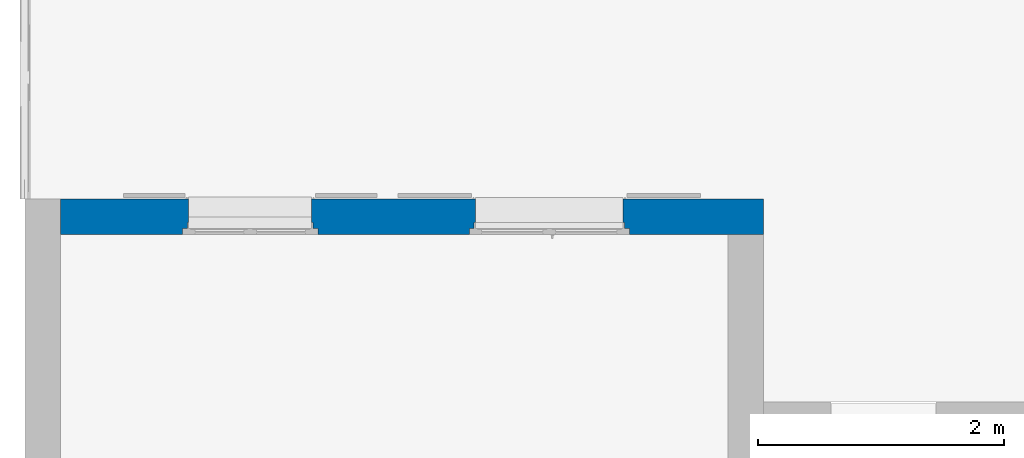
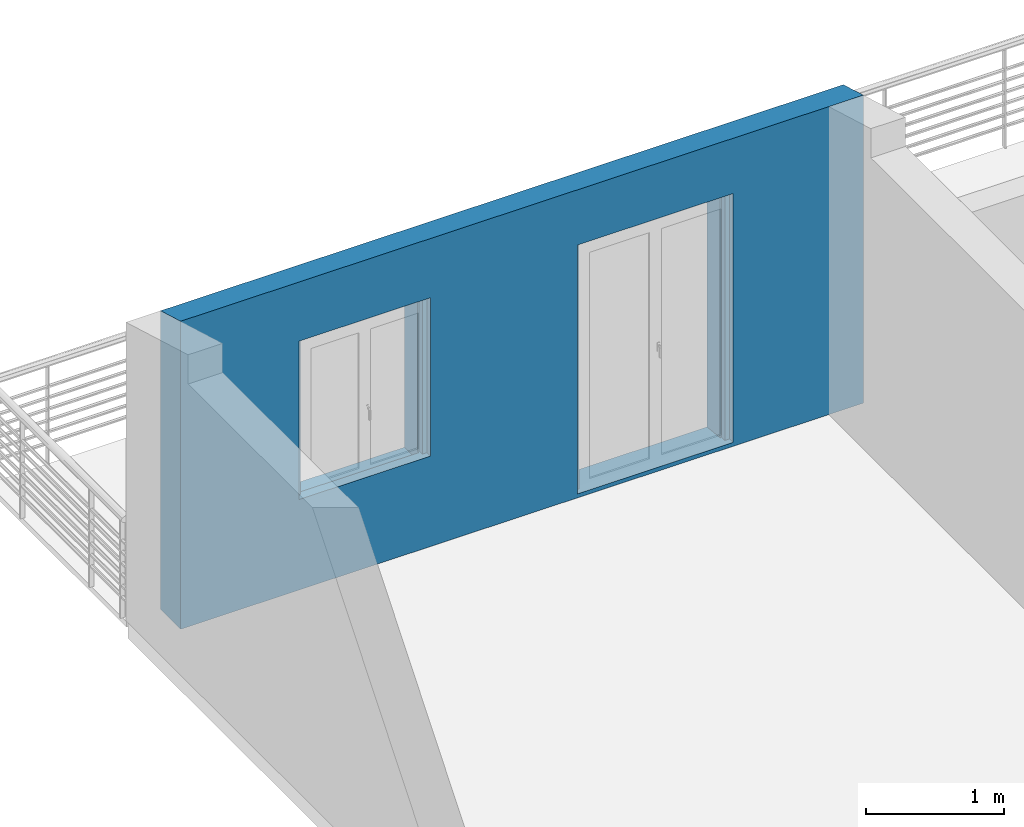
# One storey, part 4 of 6: 1 wall, 2 openings.
"""IFC2X3 building model written with IfcOpenShell, lengths in metres."""

from ifc_helpers import new_model, entity, si_unit, converted_unit, derived_unit, direction, frame, frame_2d, origin, place, context, subcontext, project, spatial, polyline, rectangle, extrude, clip, bounded_halfspace, faceted_brep, material, layer, layer_set, layer_usage, type_object, element, save


model = new_model("IFC2X3")

# Units and contexts
model_context = context("Model", 3, precision=1e-05, world=origin(), true_north=direction((6.12303176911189e-17, 1.0)))
context_of_model = context(None, 3, precision=1e-05, world=origin(), true_north=direction((6.12303176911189e-17, 1.0)))
body_context = subcontext(model_context, "Body", "Model", "MODEL_VIEW")
ifc_project = project(units=[si_unit("LENGTHUNIT", "METRE"), si_unit("AREAUNIT", "SQUARE_METRE"), si_unit("VOLUMEUNIT", "CUBIC_METRE"), converted_unit("PLANEANGLEUNIT", "DEGREE", entity("IfcRatioMeasure", 0.0174532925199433), si_unit("PLANEANGLEUNIT", "RADIAN"), dimensions=[0, 0, 0, 0, 0, 0, 0]), si_unit("MASSUNIT", "GRAM", prefix="KILO"), si_unit("TIMEUNIT", "SECOND"), si_unit("FREQUENCYUNIT", "HERTZ"), si_unit("THERMODYNAMICTEMPERATUREUNIT", "DEGREE_CELSIUS"), derived_unit("THERMALTRANSMITTANCEUNIT", [(si_unit("MASSUNIT", "GRAM", prefix="KILO"), 1), (si_unit("THERMODYNAMICTEMPERATUREUNIT", "KELVIN"), -1), (si_unit("TIMEUNIT", "SECOND"), -3)]), derived_unit("VOLUMETRICFLOWRATEUNIT", [(si_unit("LENGTHUNIT", "METRE"), 3), (si_unit("TIMEUNIT", "SECOND"), -1)]), si_unit("ELECTRICCURRENTUNIT", "AMPERE"), si_unit("ELECTRICVOLTAGEUNIT", "VOLT"), si_unit("POWERUNIT", "WATT"), si_unit("FORCEUNIT", "NEWTON", prefix="KILO"), si_unit("ILLUMINANCEUNIT", "LUX"), si_unit("LUMINOUSFLUXUNIT", "LUMEN"), si_unit("LUMINOUSINTENSITYUNIT", "CANDELA"), si_unit("PRESSUREUNIT", "PASCAL")], contexts=[model_context, context_of_model])

# Site, building, storey
site_placement = place(None, origin())
site = spatial("IfcSite", under=ifc_project, at=site_placement, Name="Surface", CompositionType="ELEMENT")
building_placement = place(site_placement, origin())
building = spatial("IfcBuilding", under=site, at=building_placement, CompositionType="ELEMENT")
storey_placement = place(building_placement, origin())
storey = spatial("IfcBuildingStorey", under=building, at=storey_placement, Name="Niveau 0", CompositionType="ELEMENT", Elevation=-1.94916083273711e-14)

# Wall, openings
ifc_material_1 = material(Name="Maçonnerie - Enduit")
ifc_layer_1 = layer(ifc_material_1, 0.01)
ifc_material_2 = material(Name="Eléments de maçonnerie en béton")
ifc_layer_2 = layer(ifc_material_2, 0.2)
ifc_material_3 = material(Name="Maçonnerie - Isolant")
ifc_layer_3 = layer(ifc_material_3, 0.08)
ifc_layer_set = layer_set([ifc_layer_1, ifc_layer_2, ifc_layer_3], Name="Mur de base:Ext. Parpaing 20 + Isolant 8")
ifc_layer_usage = layer_usage(ifc_layer_set, "AXIS2", "NEGATIVE", 0.145)
wall_type = type_object("IfcWallType", Name="Mur de base:Ext. Parpaing 20 + Isolant 8", PredefinedType="STANDARD", material=ifc_layer_set)
wall_placement = place(storey_placement, frame((-8.50909160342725, 1.64641734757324, 0.0)))
wall = element("IfcWallStandardCase", 1, at=wall_placement, inside=storey, type_object=wall_type, material=ifc_layer_usage, Name="Mur de base:Ext. Parpaing 20 + Isolant 8", ObjectType="Mur de base:Ext. Parpaing 20 + Isolant 8", context=body_context, shape_type="Clipping", body=[
    clip(extrude(rectangle(XDim=5.71, YDim=0.29, at=frame_2d((2.855, -6.93889390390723e-17), x_axis=(-1.0, 0.0))), origin(), (0.0, 0.0, 1.0), 2.72315616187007), bounded_halfspace(frame((0.0, -0.145, 2.72315616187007), z_axis=(0.0, 0.275637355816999, 0.961261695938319), x_axis=(-1.0, 0.0, 0.0)), False, frame((0.0, -0.145, 2.72315616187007)), polyline([(0.0, 0.0), (5.42, 0.0), (5.71, 0.0), (5.71, 0.29), (0.0, 0.29), (0.0, 0.0)]))),
])
opening_1_placement = place(wall_placement, frame((0.989999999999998, -0.500000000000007, 0.72)))
element("IfcOpeningElement", 2, at=opening_1_placement, cuts=wall, Name="Mur de base:Ext. Parpaing 20 + Isolant 8", ObjectType="Opening", context=body_context, shape_type="Brep", body=[
    faceted_brep([(0.0500000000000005, 0.434999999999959, 0.0800000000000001), (0.0500000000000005, 0.455000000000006, 0.0800000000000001), (0.0500000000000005, 0.455000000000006, 1.43), (0.0500000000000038, 1.0, 1.43), (0.0500000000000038, 1.0, 0.0), (0.0500000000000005, 0.434999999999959, 0.0), (1.05, 0.0, 0.0800000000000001), (1.05, 0.355000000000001, 0.0800000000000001), (1.05, 0.355000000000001, 1.43), (1.05, 0.0, 1.43), (0.0499999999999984, 0.0, 0.0800000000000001), (0.0500000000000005, 0.355000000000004, 0.0800000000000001), (0.0, 0.355000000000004, 0.0800000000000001), (0.0, 0.405000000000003, 0.0800000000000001), (0.0399999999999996, 0.405000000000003, 0.0800000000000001), (0.0399999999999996, 0.455000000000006, 0.0800000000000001), (1.05, 0.434999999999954, 0.0800000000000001), (1.05, 0.455000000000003, 0.0800000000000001), (1.06, 0.455000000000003, 0.0800000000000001), (1.06, 0.405, 0.0800000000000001), (1.1, 0.405, 0.0800000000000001), (1.1, 0.355000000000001, 0.0800000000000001), (0.0499999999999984, 0.0, 1.43), (1.05, 0.455000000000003, 1.43), (1.05, 1.0, 1.43), (1.05, 1.0, 0.0), (1.05, 0.434999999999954, 0.0), (0.0, 0.355000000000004, 1.48), (0.0, 0.405000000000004, 1.48), (1.1, 0.405, 1.48), (1.06, 0.405, 1.44), (0.0400000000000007, 0.405000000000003, 1.44), (0.0399999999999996, 0.455000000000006, 1.44), (1.06, 0.455000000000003, 1.44), (0.0500000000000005, 0.355000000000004, 1.43), (1.1, 0.355, 1.48)], [[[0, 1, 2, 3, 4, 5]], [[6, 7, 8, 9]], [[10, 11, 12, 13, 14, 15, 1, 0, 16, 17, 18, 19, 20, 21, 7, 6]], [[10, 6, 9, 22]], [[3, 2, 23, 24]], [[3, 24, 25, 4]], [[4, 25, 26, 5]], [[5, 26, 16, 0]], [[12, 27, 28, 13]], [[13, 28, 29, 20, 19, 30, 31, 14]], [[14, 31, 32, 15]], [[15, 32, 33, 18, 17, 23, 2, 1]], [[11, 34, 8, 7, 21, 35, 27, 12]], [[27, 35, 29, 28]], [[30, 33, 32, 31]], [[29, 35, 21, 20]], [[19, 18, 33, 30]], [[9, 8, 34, 22]], [[24, 23, 17, 16, 26, 25]], [[22, 34, 11, 10]]]),
])
opening_2_placement = place(wall_placement, frame((3.32, -0.500000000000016, 0.0)))
element("IfcOpeningElement", 3, at=opening_2_placement, cuts=wall, Name="Mur de base:Ext. Parpaing 20 + Isolant 8", ObjectType="Opening", context=body_context, shape_type="Brep", body=[
    faceted_brep([(0.0500000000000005, 0.435000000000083, 0.0350000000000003), (0.0500000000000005, 0.455000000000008, 0.0350000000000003), (0.0500000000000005, 0.455000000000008, 2.185), (0.0500000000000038, 1.0, 2.185), (0.0500000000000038, 1.0, 0.0), (0.0500000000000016, 0.768002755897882, 0.0), (1.25, 0.0, 0.0350000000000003), (1.25, 0.355000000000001, 0.0350000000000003), (1.25, 0.355000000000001, 2.185), (1.25, 0.0, 2.185), (0.0499999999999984, 0.0, 0.0350000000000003), (0.0500000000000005, 0.355000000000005, 0.0350000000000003), (0.0, 0.355000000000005, 0.0350000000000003), (0.0, 0.405000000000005, 0.0350000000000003), (0.0399999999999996, 0.405000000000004, 0.0350000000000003), (0.0399999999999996, 0.455000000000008, 0.0350000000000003), (1.25, 0.435000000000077, 0.0350000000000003), (1.25, 0.455000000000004, 0.035), (1.26, 0.455000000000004, 0.0350000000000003), (1.26, 0.405000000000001, 0.0350000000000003), (1.3, 0.405, 0.0350000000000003), (1.3, 0.355000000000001, 0.0350000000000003), (0.0499999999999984, 0.0, 2.185), (1.25, 0.455000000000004, 2.185), (1.25, 1.0, 2.185), (1.25, 1.0, 0.0), (1.25, 0.768002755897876, 0.0), (0.0, 0.355000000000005, 2.235), (0.0, 0.405000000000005, 2.235), (1.3, 0.405, 2.235), (1.26, 0.405000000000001, 2.195), (0.0400000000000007, 0.405000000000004, 2.195), (0.0400000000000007, 0.455000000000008, 2.195), (1.26, 0.455000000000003, 2.195), (0.0500000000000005, 0.355000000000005, 2.185), (1.3, 0.355000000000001, 2.235)], [[[0, 1, 2, 3, 4, 5]], [[6, 7, 8, 9]], [[10, 11, 12, 13, 14, 15, 1, 0, 16, 17, 18, 19, 20, 21, 7, 6]], [[10, 6, 9, 22]], [[3, 2, 23, 24]], [[3, 24, 25, 4]], [[4, 25, 26, 5]], [[5, 26, 16, 0]], [[12, 27, 28, 13]], [[13, 28, 29, 20, 19, 30, 31, 14]], [[14, 31, 32, 15]], [[15, 32, 33, 18, 17, 23, 2, 1]], [[11, 34, 8, 7, 21, 35, 27, 12]], [[27, 35, 29, 28]], [[30, 33, 32, 31]], [[29, 35, 21, 20]], [[19, 18, 33, 30]], [[9, 8, 34, 22]], [[24, 23, 17, 16, 26, 25]], [[22, 34, 11, 10]]]),
])

save(model, "model.ifc")
